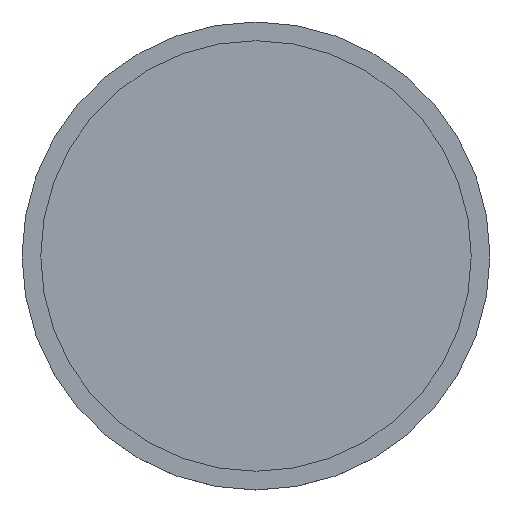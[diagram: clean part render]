
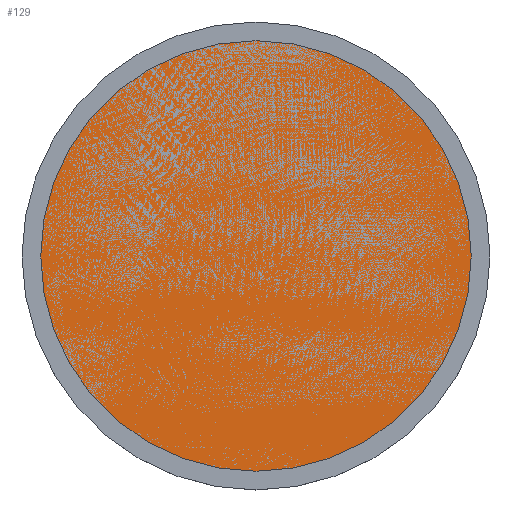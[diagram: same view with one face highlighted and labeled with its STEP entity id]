
A CAD part, top view. The second image highlights one B-rep face of the part: STEP entity #129.
In plain terms, the highlighted planar face has unit normal (0, 0, 1).
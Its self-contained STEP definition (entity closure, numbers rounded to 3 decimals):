
#89 = VERTEX_POINT('',#90);
#90 = CARTESIAN_POINT('',(23.,0.,17.5));
#98 = EDGE_CURVE('',#89,#89,#99,.T.);
#99 = CIRCLE('',#100,23.);
#100 = AXIS2_PLACEMENT_3D('',#101,#102,#103);
#101 = CARTESIAN_POINT('',(0.,0.,17.5));
#102 = DIRECTION('',(0.,0.,1.));
#103 = DIRECTION('',(1.,0.,0.));
#129 = ADVANCED_FACE('',(#130),#133,.T.);
#130 = FACE_BOUND('',#131,.T.);
#131 = EDGE_LOOP('',(#132));
#132 = ORIENTED_EDGE('',*,*,#98,.T.);
#133 = PLANE('',#134);
#134 = AXIS2_PLACEMENT_3D('',#135,#136,#137);
#135 = CARTESIAN_POINT('',(0.,0.,17.5)
  );
#136 = DIRECTION('',(0.,0.,1.));
#137 = DIRECTION('',(1.,0.,0.));
